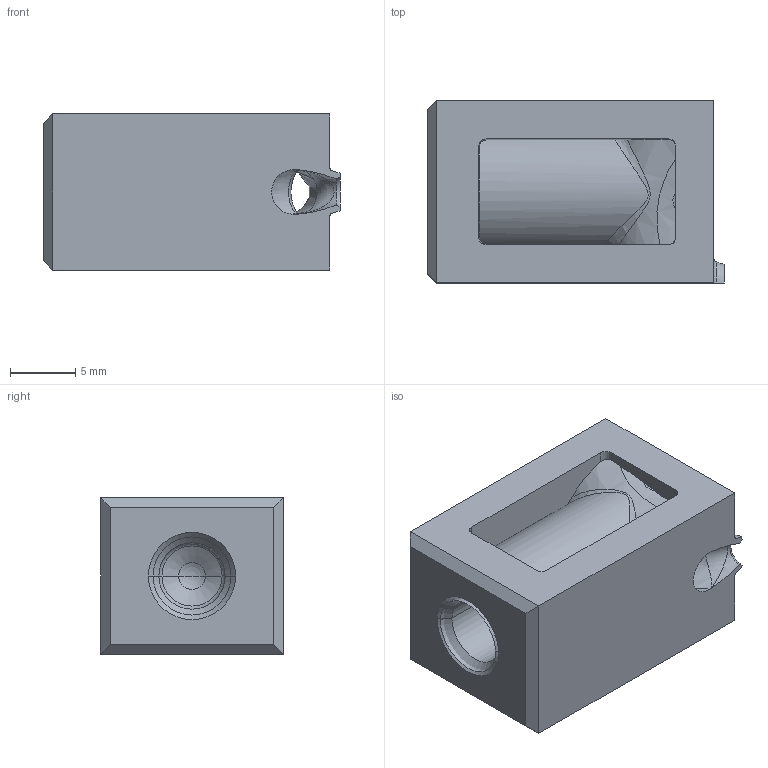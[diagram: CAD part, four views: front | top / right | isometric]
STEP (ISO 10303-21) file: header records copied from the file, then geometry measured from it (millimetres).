
FILE_DESCRIPTION((''),'2;1');
FILE_NAME('TGS14-20-S2','2004-03-24T',('tmeister'),(''),'PRO/ENGINEER BY PARAMETRIC TECHNOLOGY CORPORATION, 2002270','PRO/ENGINEER BY PARAMETRIC TECHNOLOGY CORPORATION, 2002270','');
FILE_SCHEMA(('CONFIG_CONTROL_DESIGN'));
Length unit declared in the file: millimetre
Products named in the file (1): TGS14-20-S2
Bounding box: 22.8 x 14 x 12 mm (x, y, z)
Volume: 2794.6 mm3; surface area: 2226.9 mm2
Topology: 1 solids, 2 shells, 66 faces, 240 edges, 175 vertices
Faces by surface type: plane 21, bspline 14, cone 14, cylinder 11, sphere 3, torus 3
Entity records: 4912 total; most frequent: CARTESIAN_POINT 3190, ORIENTED_EDGE 330, DIRECTION 281, EDGE_CURVE 167, VERTEX_POINT 106, B_SPLINE_CURVE_WITH_KNOTS 104, AXIS2_PLACEMENT_3D 97, VECTOR 87
